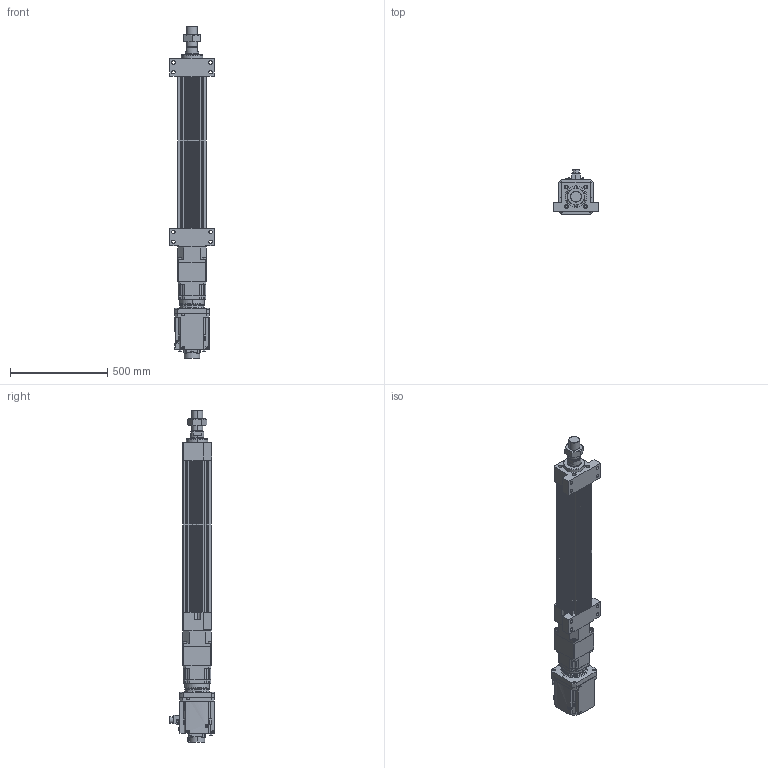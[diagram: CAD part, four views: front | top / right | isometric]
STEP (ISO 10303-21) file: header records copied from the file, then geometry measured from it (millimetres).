
FILE_DESCRIPTION (( 'STEP AP203' ), '1' );
FILE_NAME ('HES150NS(HS)-S500-W050G00-M-FFB.STEP', '2026-06-10T06:40:55', ( 'tms' ), ( '' ), 'SwSTEP 2.0', 'SolidWorks 2013', '' );
FILE_SCHEMA (( 'CONFIG_CONTROL_DESIGN' ));
Length unit declared in the file: millimetre
Products named in the file (9): HES150-FFB-500; M56X2.0P; AB1421; HES150-S-G142; HES150NS(HS)-S500-W050G00-M-FFB; AB1423; AB1422; HG-SR502B; HES150-M-ROD-500
Assembly tree (8 placements, depth 2):
  HES150NS(HS)-S500-W050G00-M-FFB
    HES150-FFB-500
    HES150-M-ROD-500
    M56X2.0P
    HES150-S-G142
    AB1421
    AB1422
    AB1423
    HG-SR502B
Bounding box: 230 x 228.85 x 1703 mm (x, y, z)
Volume: 20027257.1 mm3; surface area: 2098119.8 mm2
Topology: 5 solids, 19 shells, 1554 faces, 4050 edges, 2642 vertices
Faces by surface type: cylinder 710, plane 622, cone 140, bspline 76, torus 6
Entity records: 56814 total; most frequent: CARTESIAN_POINT 17056, DIRECTION 8322, ORIENTED_EDGE 8026, EDGE_CURVE 4035, AXIS2_PLACEMENT_3D 3133, VERTEX_POINT 2642, LINE 2056, VECTOR 2056
